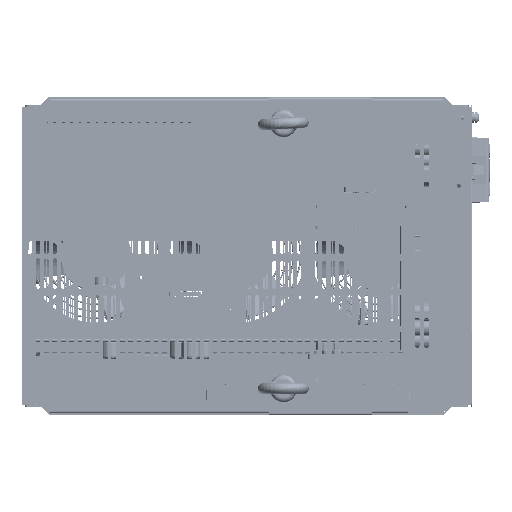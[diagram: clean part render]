
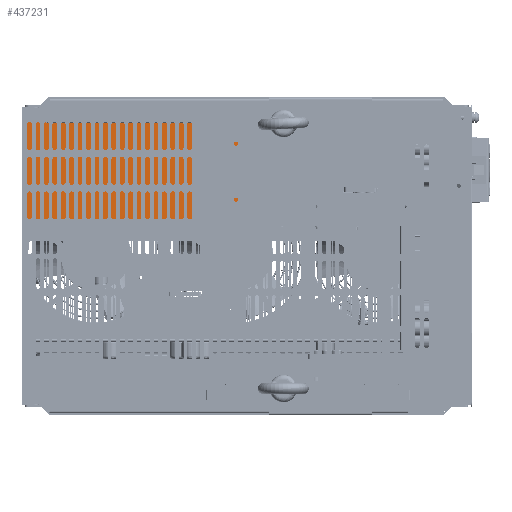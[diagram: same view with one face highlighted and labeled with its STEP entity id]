
A CAD part, front view. The second image highlights one B-rep face of the part: STEP entity #437231.
In plain terms, the highlighted planar face has unit normal (0, -1, 0) as drawn and (-1, 0, 0) by its records, which use the part's own axes.
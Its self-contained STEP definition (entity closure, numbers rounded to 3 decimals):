
#42174 = CARTESIAN_POINT ( 'NONE',  ( 276.5, 88.8, 10. ) ) ;
#44935 = VECTOR ( 'NONE', #501072, 1000. ) ;
#58835 = LINE ( 'NONE', #684806, #618922 ) ;
#69421 = DIRECTION ( 'NONE',  ( 0., -1., 0. ) ) ;
#70310 = CARTESIAN_POINT ( 'NONE',  ( 276.5, 0., 0. ) ) ;
#92976 = CARTESIAN_POINT ( 'NONE',  ( 276.5, -33.3, 10. ) ) ;
#137421 = VERTEX_POINT ( 'NONE', #92976 ) ;
#146139 = CARTESIAN_POINT ( 'NONE',  ( 276.5, -33.5, -220.05 ) ) ;
#147009 = DIRECTION ( 'NONE',  ( 0., 1., 0. ) ) ;
#155660 = EDGE_CURVE ( 'NONE', #860498, #808448, #247717, .T. ) ;
#186791 = LINE ( 'NONE', #146139, #770597 ) ;
#210405 = CARTESIAN_POINT ( 'NONE',  ( 276.5, -33.3, 10. ) ) ;
#238191 = CARTESIAN_POINT ( 'NONE',  ( 276.5, 90.5, 10. ) ) ;
#247717 = LINE ( 'NONE', #424405, #44935 ) ;
#256472 = EDGE_LOOP ( 'NONE', ( #331146, #400805, #378049, #434554, #608883, #970550 ) ) ;
#317329 = EDGE_CURVE ( 'NONE', #137421, #584460, #479029, .T. ) ;
#331146 = ORIENTED_EDGE ( 'NONE', *, *, #818610, .T. ) ;
#378049 = ORIENTED_EDGE ( 'NONE', *, *, #418895, .T. ) ;
#381715 = DIRECTION ( 'NONE',  ( 0., -1., 0. ) ) ;
#390415 = LINE ( 'NONE', #238191, #795578 ) ;
#400805 = ORIENTED_EDGE ( 'NONE', *, *, #662318, .F. ) ;
#417712 = CARTESIAN_POINT ( 'NONE',  ( 276.5, 77.5, -220.05 ) ) ;
#418895 = EDGE_CURVE ( 'NONE', #821133, #584460, #58835, .T. ) ;
#424405 = CARTESIAN_POINT ( 'NONE',  ( 276.5, 88.8, 0. ) ) ;
#434554 = ORIENTED_EDGE ( 'NONE', *, *, #317329, .F. ) ;
#437231 = ADVANCED_FACE ( 'NONE', ( #657359 ), #753091, .F. ) ;
#479029 = LINE ( 'NONE', #210405, #657705 ) ;
#501072 = DIRECTION ( 'NONE',  ( 0., 0., 1. ) ) ;
#522583 = CARTESIAN_POINT ( 'NONE',  ( 276.5, -23., -220.05 ) ) ;
#539097 = VERTEX_POINT ( 'NONE', #417712 ) ;
#562179 = CARTESIAN_POINT ( 'NONE',  ( 276.5, -33.3, -220.05 ) ) ;
#584460 = VERTEX_POINT ( 'NONE', #562179 ) ;
#603347 = DIRECTION ( 'NONE',  ( 1., 0., 0. ) ) ;
#605489 = CARTESIAN_POINT ( 'NONE',  ( 276.5, 88.8, -220.05 ) ) ;
#608883 = ORIENTED_EDGE ( 'NONE', *, *, #657961, .T. ) ;
#613788 = VECTOR ( 'NONE', #803239, 1000. ) ;
#618922 = VECTOR ( 'NONE', #381715, 1000. ) ;
#637714 = LINE ( 'NONE', #726645, #613788 ) ;
#657359 = FACE_OUTER_BOUND ( 'NONE', #256472, .T. ) ;
#657705 = VECTOR ( 'NONE', #896379, 1000. ) ;
#657961 = EDGE_CURVE ( 'NONE', #137421, #808448, #390415, .T. ) ;
#662318 = EDGE_CURVE ( 'NONE', #821133, #539097, #637714, .T. ) ;
#684806 = CARTESIAN_POINT ( 'NONE',  ( 276.5, -33.5, -220.05 ) ) ;
#726645 = CARTESIAN_POINT ( 'NONE',  ( 276.5, 0., -220.05 ) ) ;
#753091 = PLANE ( 'NONE',  #924546 ) ;
#770597 = VECTOR ( 'NONE', #69421, 1000. ) ;
#770837 = DIRECTION ( 'NONE',  ( 0., 1., 0. ) ) ;
#795578 = VECTOR ( 'NONE', #770837, 1000. ) ;
#803239 = DIRECTION ( 'NONE',  ( 0., 1., 0. ) ) ;
#808448 = VERTEX_POINT ( 'NONE', #42174 ) ;
#818610 = EDGE_CURVE ( 'NONE', #860498, #539097, #186791, .T. ) ;
#821133 = VERTEX_POINT ( 'NONE', #522583 ) ;
#860498 = VERTEX_POINT ( 'NONE', #605489 ) ;
#896379 = DIRECTION ( 'NONE',  ( 0., 0., -1. ) ) ;
#924546 = AXIS2_PLACEMENT_3D ( 'NONE', #70310, #603347, #147009 ) ;
#970550 = ORIENTED_EDGE ( 'NONE', *, *, #155660, .F. ) ;
